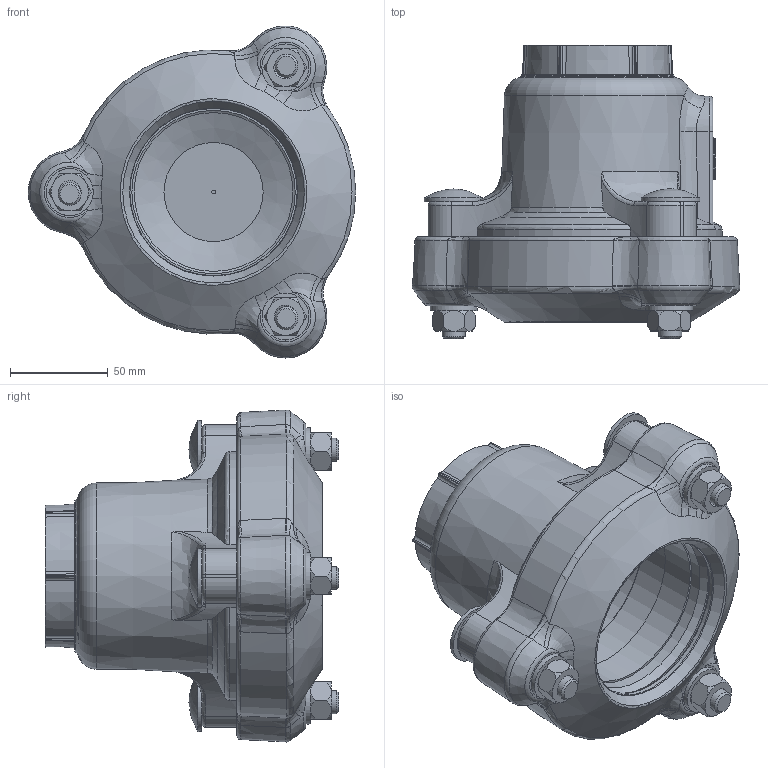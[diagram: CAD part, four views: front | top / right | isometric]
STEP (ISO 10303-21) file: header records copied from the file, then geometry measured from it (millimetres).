
FILE_DESCRIPTION((''),'2;1');
FILE_NAME('P:\Fastrack\54361_VIKING JOHNSON 3D\ULTRAGRIP\Component Parts\Components Built up\End-Cap\65MM\65mm.stp','2012-04-27T14:55:07',('dcole'),(''),'Autodesk Inventor 2008','Autodesk Inventor 2008','');
FILE_SCHEMA(('AUTOMOTIVE_DESIGN { 1 0 10303 214 1 1 1 1 }'));
Length unit declared in the file: millimetre
Products named in the file (1): 65mm
Bounding box: 167.37 x 149.92 x 169.7 mm (x, y, z)
Surface area: 173565.8 mm2 (no closed solid volume)
Topology: 0 solids, 1 shells, 549 faces, 1471 edges, 934 vertices
Faces by surface type: plane 152, cylinder 128, cone 113, bspline 103, torus 53
Full cylindrical faces by diameter (mm): 2 x1, 11.75 x3, 13 x1, 24 x3, 30 x3, 83.5 x1, 85.5 x3, 86.25 x2, 92.5 x1
Entity records: 26136 total; most frequent: CARTESIAN_POINT 12872, ORIENTED_EDGE 2772, DIRECTION 2465, EDGE_CURVE 1386, AXIS2_PLACEMENT_3D 1035, VERTEX_POINT 899, EDGE_LOOP 627, CIRCLE 570
